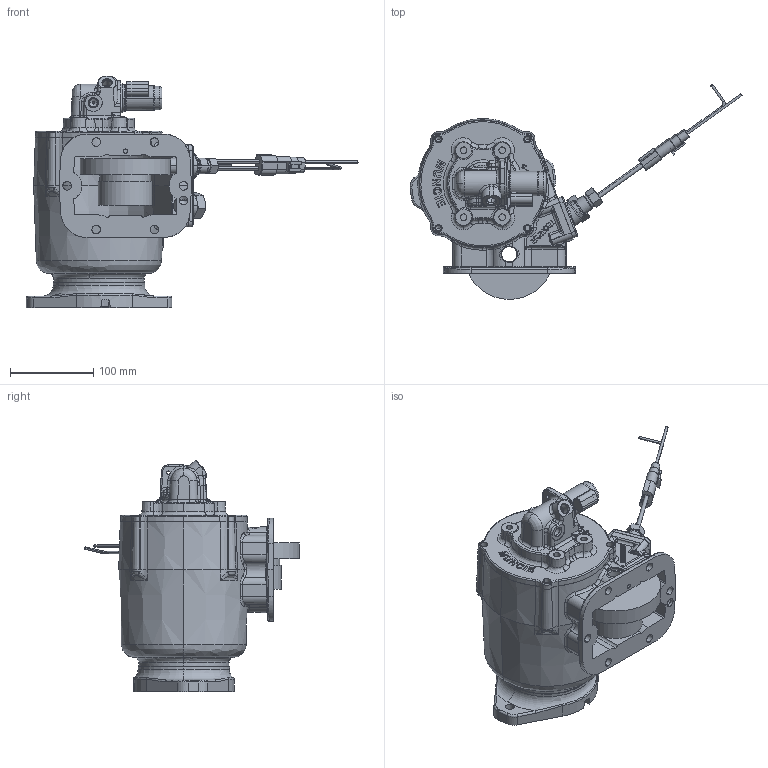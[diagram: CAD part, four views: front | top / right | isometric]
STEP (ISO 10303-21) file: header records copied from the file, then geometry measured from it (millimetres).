
FILE_DESCRIPTION (( 'STEP AP203' ), '1' );
FILE_NAME ('CS6B-A67XX-S1SS.STEP', '2015-03-10T14:26:57', ( '' ), ( '' ), 'SwSTEP 2.0', 'SolidWorks 2015', '' );
FILE_SCHEMA (( 'CONFIG_CONTROL_DESIGN' ));
Length unit declared in the file: inch
Products named in the file (1): CS6B-A67XX-S1SS
Bounding box: 398.3 x 257.89 x 278.15 mm (x, y, z)
Surface area: 445733 mm2 (no closed solid volume)
Topology: 0 solids, 18 shells, 2111 faces, 5470 edges, 3448 vertices
Faces by surface type: bspline 805, cylinder 601, plane 499, cone 182, torus 24
Entity records: 158543 total; most frequent: CARTESIAN_POINT 113576, ORIENTED_EDGE 10830, DIRECTION 6859, EDGE_CURVE 5417, VERTEX_POINT 3447, AXIS2_PLACEMENT_3D 2491, EDGE_LOOP 2342, B_SPLINE_CURVE_WITH_KNOTS 2259
